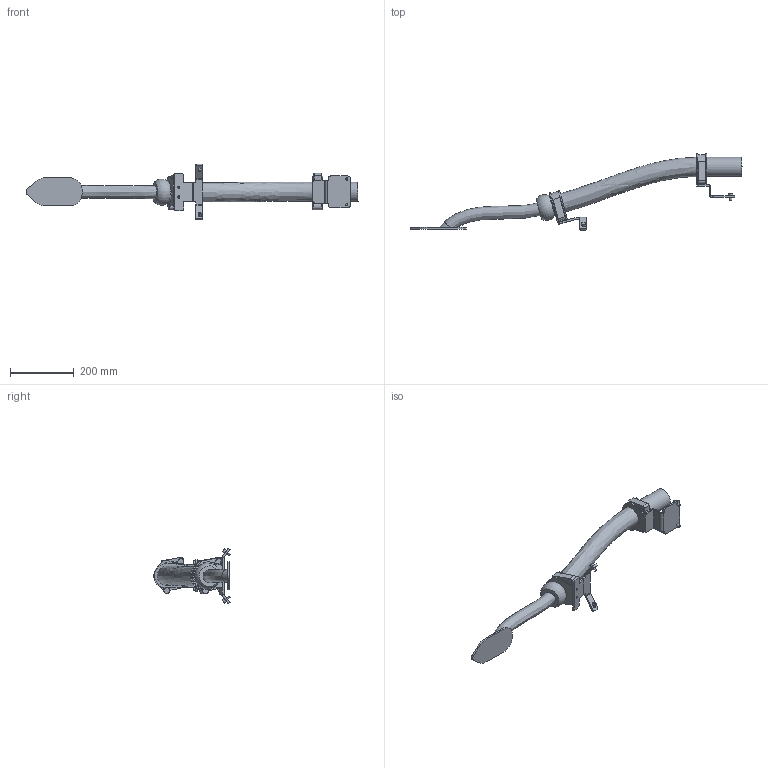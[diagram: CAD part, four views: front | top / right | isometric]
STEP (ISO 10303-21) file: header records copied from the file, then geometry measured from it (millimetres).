
FILE_DESCRIPTION (( 'STEP AP214' ), '1' );
FILE_NAME ('IRB6740-MH3_260kg-300_OC_00_LINK04_CABLE.step', '2026-05-07T13:29:06', ( '' ), ( '' ), 'SwSTEP 2.0', 'SolidWorks 2024', '' );
FILE_SCHEMA (( 'AUTOMOTIVE_DESIGN' ));
Length unit declared in the file: millimetre
Products named in the file (1): IRB6740-MH3_260kg-300_OC_00_LINK04_CABLE
Bounding box: 1037.81 x 238.88 x 174.65 mm (x, y, z)
Volume: 2784759.3 mm3; surface area: 283692.2 mm2
Topology: 1 solids, 1 shells, 257 faces, 683 edges, 441 vertices
Faces by surface type: plane 183, cylinder 69, bspline 2, cone 2, torus 1
Full cylindrical faces by diameter (mm): 6.8 x2, 7 x4, 13 x4, 19 x2, 60 x1, 63 x1
Entity records: 11016 total; most frequent: CARTESIAN_POINT 1823, DIRECTION 1322, ORIENTED_EDGE 1296, EDGE_CURVE 648, VECTOR 476, LINE 476, VERTEX_POINT 427, AXIS2_PLACEMENT_3D 423
